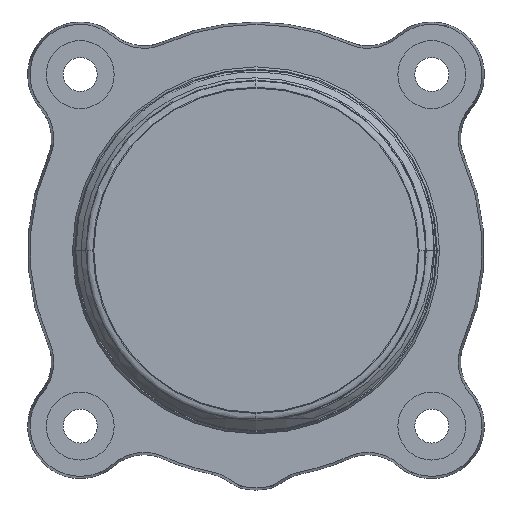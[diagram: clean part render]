
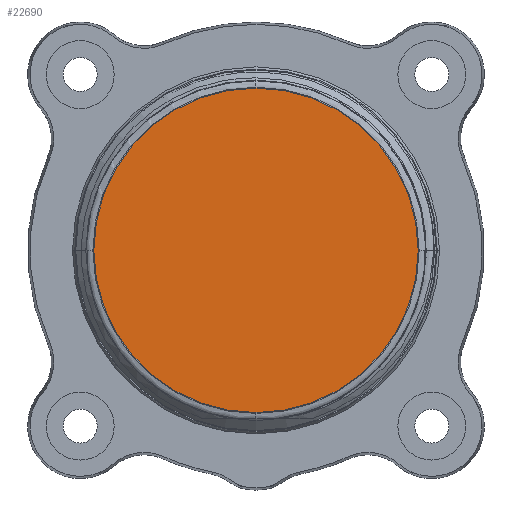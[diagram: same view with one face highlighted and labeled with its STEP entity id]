
A CAD part, front view. The second image highlights one B-rep face of the part: STEP entity #22690.
In plain terms, the highlighted planar face has unit normal (0, -1, 0).
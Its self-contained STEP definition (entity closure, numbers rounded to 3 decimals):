
#21944 = EDGE_CURVE('',#21945,#21947,#21949,.T.);
#21945 = VERTEX_POINT('',#21946);
#21946 = CARTESIAN_POINT('',(-11.367,-12.737,0.));
#21947 = VERTEX_POINT('',#21948);
#21948 = CARTESIAN_POINT('',(11.367,-12.737,0.));
#21949 = CIRCLE('',#21950,11.367);
#21950 = AXIS2_PLACEMENT_3D('',#21951,#21952,#21953);
#21951 = CARTESIAN_POINT('',(0.,-12.737,
    0.));
#21952 = DIRECTION('',(0.,-1.,0.));
#21953 = DIRECTION('',(-1.,0.,0.));
#22690 = ADVANCED_FACE('',(#22691),#22701,.T.);
#22691 = FACE_BOUND('',#22692,.T.);
#22692 = EDGE_LOOP('',(#22693,#22700));
#22693 = ORIENTED_EDGE('',*,*,#22694,.T.);
#22694 = EDGE_CURVE('',#21947,#21945,#22695,.T.);
#22695 = CIRCLE('',#22696,11.367);
#22696 = AXIS2_PLACEMENT_3D('',#22697,#22698,#22699);
#22697 = CARTESIAN_POINT('',(0.,-12.737,
    0.));
#22698 = DIRECTION('',(0.,-1.,0.));
#22699 = DIRECTION('',(-1.,0.,0.));
#22700 = ORIENTED_EDGE('',*,*,#21944,.T.);
#22701 = PLANE('',#22702);
#22702 = AXIS2_PLACEMENT_3D('',#22703,#22704,#22705);
#22703 = CARTESIAN_POINT('',(0.,-12.737,
    0.));
#22704 = DIRECTION('',(0.,-1.,0.));
#22705 = DIRECTION('',(-1.,0.,0.));
